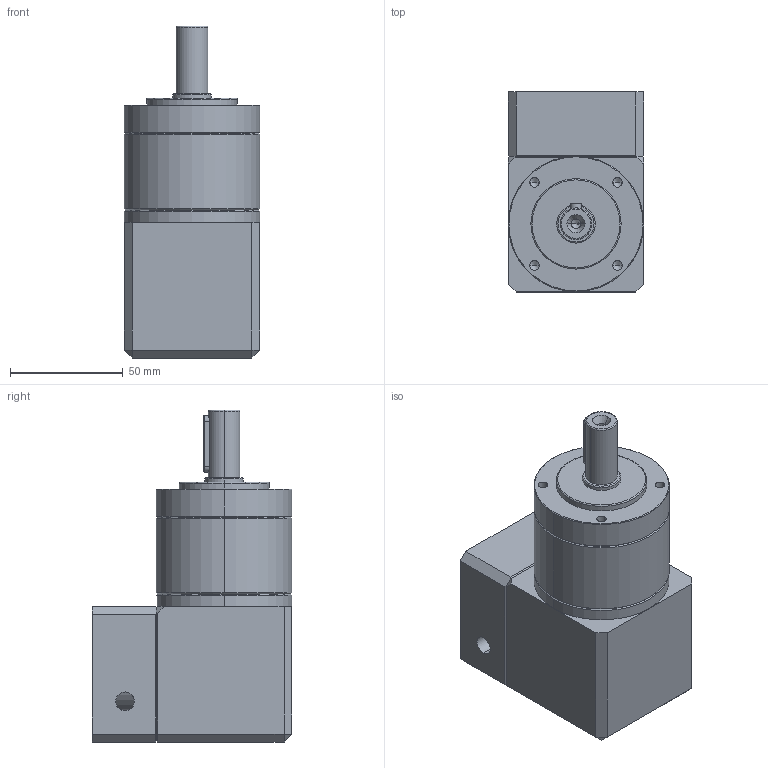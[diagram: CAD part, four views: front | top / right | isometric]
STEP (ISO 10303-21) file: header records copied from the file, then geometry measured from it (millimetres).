
FILE_DESCRIPTION (( 'STEP AP214' ), '1' );
FILE_NAME ('6.0005 WPL60-10-14x30-50-70m4.STEP', '2026-02-13T12:23:36', ( '' ), ( '' ), 'SwSTEP 2.0', 'SolidWorks 2025', '' );
FILE_SCHEMA (( 'AUTOMOTIVE_DESIGN' ));
Length unit declared in the file: millimetre
Products named in the file (1): 6.0005 WPL60-10-14x30-50-70m4
Bounding box: 60 x 88.5 x 147 mm (x, y, z)
Volume: 439225.3 mm3; surface area: 49611.7 mm2
Topology: 2 solids, 2 shells, 182 faces, 414 edges, 239 vertices
Faces by surface type: plane 70, cylinder 65, cone 36, torus 11
Entity records: 7273 total; most frequent: CARTESIAN_POINT 1147, DIRECTION 914, ORIENTED_EDGE 788, EDGE_CURVE 394, AXIS2_PLACEMENT_3D 348, VERTEX_POINT 239, LINE 218, VECTOR 218
